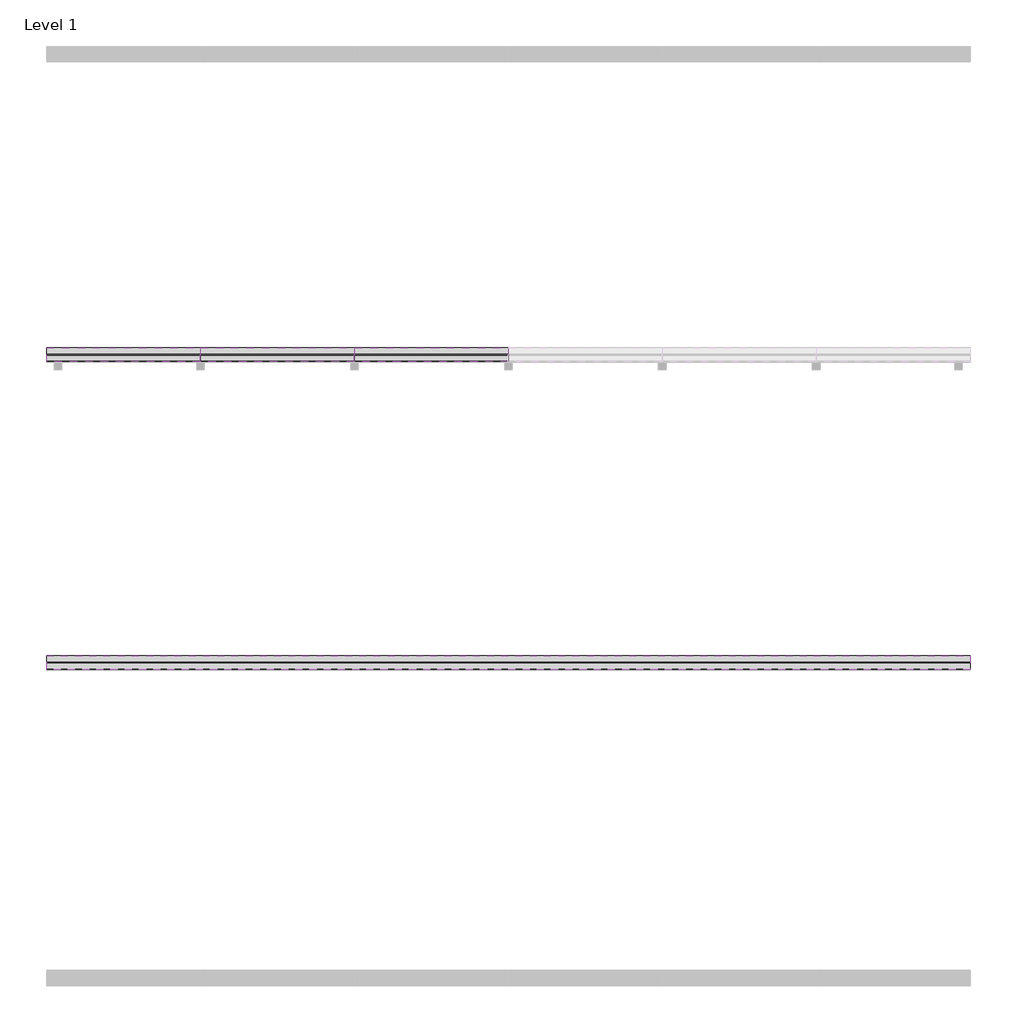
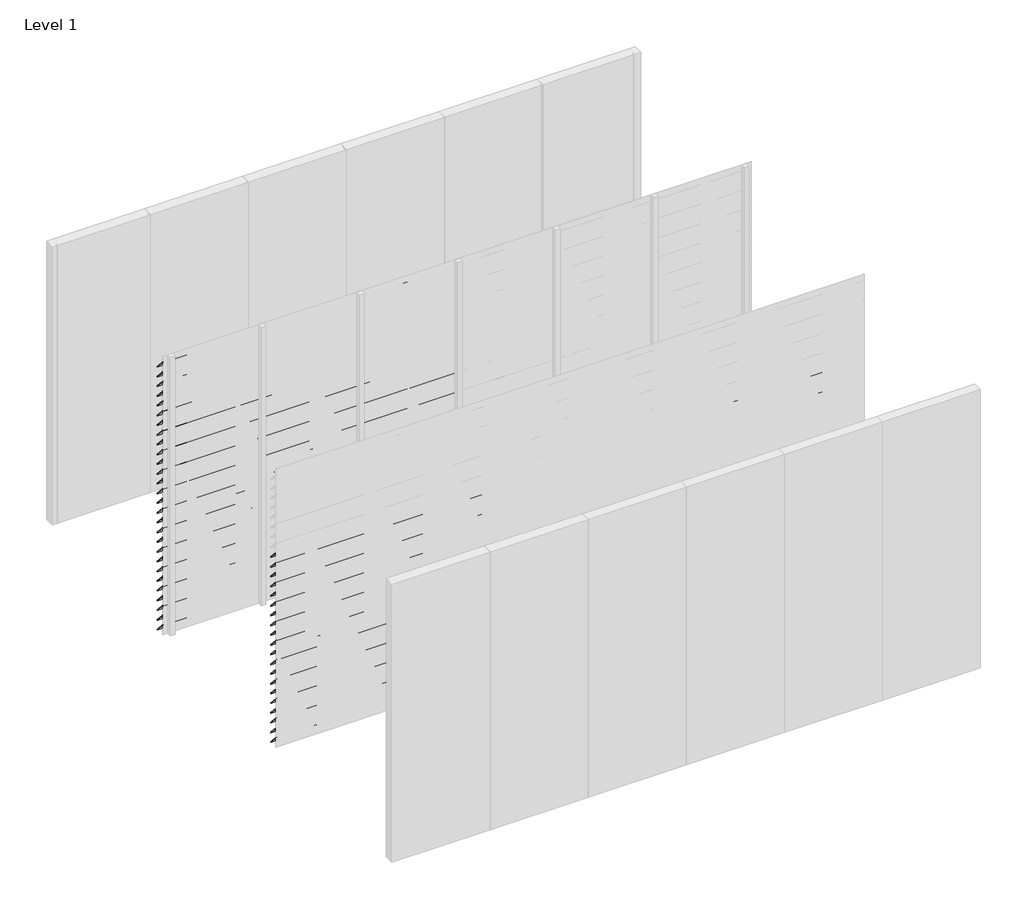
# One storey, part 4 of 9: 95 proxies.
"""IFC4 building model written with IfcOpenShell, lengths in millimetres."""

from ifc_helpers import new_model, si_unit, frame, origin, place, context, project, spatial, polyline, outline, extrude, element, save

model = new_model("IFC4")

# Units and contexts
model_context = context("Model", 3, world=origin())
ifc_project = project(units=[si_unit("LENGTHUNIT", "METRE", prefix="MILLI")], contexts=[model_context])

# Site, building, storey
site = spatial("IfcSite", under=ifc_project)
building = spatial("IfcBuilding", under=site)
storey = spatial("IfcBuildingStorey", under=building, Name="Level 1", Elevation=0.0)

# Proxies
placement = place(None, origin())
element("IfcBuildingElementProxy", 1, Name="Wall Sweeps", at=placement, inside=storey, context=model_context, shape_type="SweptSolid", body=[
    extrude(outline(polyline([(-11995.0, 2940.0), (-11995.0, 2935.6232888), (-11908.0, 2839.0), (-11908.0, 2829.0), (-11997.0, 2927.8445138), (-11997.0, 2940.0), (-11995.0, 2940.0)])), frame((0.0, 0.0, 0.0), z_axis=(1.0, 0.0, 0.0), x_axis=(0.0, 1.0, 0.0)), (0.0, 0.0, 1.0), 1000.0),
])
element("IfcBuildingElementProxy", 2, Name="Wall Sweeps", at=placement, inside=storey, context=model_context, shape_type="SweptSolid", body=[
    extrude(outline(polyline([(-11995.0, 2835.0), (-11995.0, 2830.6232888), (-11908.0, 2734.0), (-11908.0, 2724.0), (-11997.0, 2822.8445138), (-11997.0, 2835.0), (-11995.0, 2835.0)])), frame((0.0, 0.0, 0.0), z_axis=(1.0, 0.0, 0.0), x_axis=(0.0, 1.0, 0.0)), (0.0, 0.0, 1.0), 1000.0),
])
element("IfcBuildingElementProxy", 3, Name="Wall Sweeps", at=placement, inside=storey, context=model_context, shape_type="SweptSolid", body=[
    extrude(outline(polyline([(-11995.0, 2730.0), (-11995.0, 2725.6232888), (-11908.0, 2629.0), (-11908.0, 2619.0), (-11997.0, 2717.8445138), (-11997.0, 2730.0), (-11995.0, 2730.0)])), frame((0.0, 0.0, 0.0), z_axis=(1.0, 0.0, 0.0), x_axis=(0.0, 1.0, 0.0)), (0.0, 0.0, 1.0), 1000.0),
])
element("IfcBuildingElementProxy", 4, Name="Wall Sweeps", at=placement, inside=storey, context=model_context, shape_type="SweptSolid", body=[
    extrude(outline(polyline([(-11995.0, 2625.0), (-11995.0, 2620.6232888), (-11908.0, 2524.0), (-11908.0, 2514.0), (-11997.0, 2612.8445138), (-11997.0, 2625.0), (-11995.0, 2625.0)])), frame((0.0, 0.0, 0.0), z_axis=(1.0, 0.0, 0.0), x_axis=(0.0, 1.0, 0.0)), (0.0, 0.0, 1.0), 1000.0),
])
element("IfcBuildingElementProxy", 5, Name="Wall Sweeps", at=placement, inside=storey, context=model_context, shape_type="SweptSolid", body=[
    extrude(outline(polyline([(-11995.0, 2520.0), (-11995.0, 2515.6232888), (-11908.0, 2419.0), (-11908.0, 2409.0), (-11997.0, 2507.8445138), (-11997.0, 2520.0), (-11995.0, 2520.0)])), frame((0.0, 0.0, 0.0), z_axis=(1.0, 0.0, 0.0), x_axis=(0.0, 1.0, 0.0)), (0.0, 0.0, 1.0), 1000.0),
])
element("IfcBuildingElementProxy", 6, Name="Wall Sweeps", at=placement, inside=storey, context=model_context, shape_type="SweptSolid", body=[
    extrude(outline(polyline([(-11995.0, 2415.0), (-11995.0, 2410.6232888), (-11908.0, 2314.0), (-11908.0, 2304.0), (-11997.0, 2402.8445138), (-11997.0, 2415.0), (-11995.0, 2415.0)])), frame((0.0, 0.0, 0.0), z_axis=(1.0, 0.0, 0.0), x_axis=(0.0, 1.0, 0.0)), (0.0, 0.0, 1.0), 1000.0),
])
element("IfcBuildingElementProxy", 7, Name="Wall Sweeps", at=placement, inside=storey, context=model_context, shape_type="SweptSolid", body=[
    extrude(outline(polyline([(-11995.0, 2310.0), (-11995.0, 2305.6232888), (-11908.0, 2209.0), (-11908.0, 2199.0), (-11997.0, 2297.8445138), (-11997.0, 2310.0), (-11995.0, 2310.0)])), frame((0.0, 0.0, 0.0), z_axis=(1.0, 0.0, 0.0), x_axis=(0.0, 1.0, 0.0)), (0.0, 0.0, 1.0), 1000.0),
])
element("IfcBuildingElementProxy", 8, Name="Wall Sweeps", at=placement, inside=storey, context=model_context, shape_type="SweptSolid", body=[
    extrude(outline(polyline([(-11995.0, 2205.0), (-11995.0, 2200.6232888), (-11908.0, 2104.0), (-11908.0, 2094.0), (-11997.0, 2192.8445138), (-11997.0, 2205.0), (-11995.0, 2205.0)])), frame((0.0, 0.0, 0.0), z_axis=(1.0, 0.0, 0.0), x_axis=(0.0, 1.0, 0.0)), (0.0, 0.0, 1.0), 1000.0),
])
element("IfcBuildingElementProxy", 9, Name="Wall Sweeps", at=placement, inside=storey, context=model_context, shape_type="SweptSolid", body=[
    extrude(outline(polyline([(-11995.0, 2100.0), (-11995.0, 2095.6232888), (-11908.0, 1999.0), (-11908.0, 1989.0), (-11997.0, 2087.8445138), (-11997.0, 2100.0), (-11995.0, 2100.0)])), frame((0.0, 0.0, 0.0), z_axis=(1.0, 0.0, 0.0), x_axis=(0.0, 1.0, 0.0)), (0.0, 0.0, 1.0), 1000.0),
])
element("IfcBuildingElementProxy", 10, Name="Wall Sweeps", at=placement, inside=storey, context=model_context, shape_type="SweptSolid", body=[
    extrude(outline(polyline([(-11995.0, 1995.0), (-11995.0, 1990.6232888), (-11908.0, 1894.0), (-11908.0, 1884.0), (-11997.0, 1982.8445138), (-11997.0, 1995.0), (-11995.0, 1995.0)])), frame((0.0, 0.0, 0.0), z_axis=(1.0, 0.0, 0.0), x_axis=(0.0, 1.0, 0.0)), (0.0, 0.0, 1.0), 1000.0),
])
element("IfcBuildingElementProxy", 11, Name="Wall Sweeps", at=placement, inside=storey, context=model_context, shape_type="SweptSolid", body=[
    extrude(outline(polyline([(-11995.0, 1890.0), (-11995.0, 1885.6232888), (-11908.0, 1789.0), (-11908.0, 1779.0), (-11997.0, 1877.8445138), (-11997.0, 1890.0), (-11995.0, 1890.0)])), frame((0.0, 0.0, 0.0), z_axis=(1.0, 0.0, 0.0), x_axis=(0.0, 1.0, 0.0)), (0.0, 0.0, 1.0), 1000.0),
])
element("IfcBuildingElementProxy", 12, Name="Wall Sweeps", at=placement, inside=storey, context=model_context, shape_type="SweptSolid", body=[
    extrude(outline(polyline([(-11995.0, 1785.0), (-11995.0, 1780.6232888), (-11908.0, 1684.0), (-11908.0, 1674.0), (-11997.0, 1772.8445138), (-11997.0, 1785.0), (-11995.0, 1785.0)])), frame((0.0, 0.0, 0.0), z_axis=(1.0, 0.0, 0.0), x_axis=(0.0, 1.0, 0.0)), (0.0, 0.0, 1.0), 1000.0),
])
element("IfcBuildingElementProxy", 13, Name="Wall Sweeps", at=placement, inside=storey, context=model_context, shape_type="SweptSolid", body=[
    extrude(outline(polyline([(-11995.0, 1680.0), (-11995.0, 1675.6232888), (-11908.0, 1579.0), (-11908.0, 1569.0), (-11997.0, 1667.8445138), (-11997.0, 1680.0), (-11995.0, 1680.0)])), frame((0.0, 0.0, 0.0), z_axis=(1.0, 0.0, 0.0), x_axis=(0.0, 1.0, 0.0)), (0.0, 0.0, 1.0), 1000.0),
])
element("IfcBuildingElementProxy", 14, Name="Wall Sweeps", at=placement, inside=storey, context=model_context, shape_type="SweptSolid", body=[
    extrude(outline(polyline([(-11995.0, 1575.0), (-11995.0, 1570.6232888), (-11908.0, 1474.0), (-11908.0, 1464.0), (-11997.0, 1562.8445138), (-11997.0, 1575.0), (-11995.0, 1575.0)])), frame((0.0, 0.0, 0.0), z_axis=(1.0, 0.0, 0.0), x_axis=(0.0, 1.0, 0.0)), (0.0, 0.0, 1.0), 1000.0),
])
element("IfcBuildingElementProxy", 15, Name="Wall Sweeps", at=placement, inside=storey, context=model_context, shape_type="SweptSolid", body=[
    extrude(outline(polyline([(-11995.0, 1470.0), (-11995.0, 1465.6232888), (-11908.0, 1369.0), (-11908.0, 1359.0), (-11997.0, 1457.8445138), (-11997.0, 1470.0), (-11995.0, 1470.0)])), frame((0.0, 0.0, 0.0), z_axis=(1.0, 0.0, 0.0), x_axis=(0.0, 1.0, 0.0)), (0.0, 0.0, 1.0), 1000.0),
])
element("IfcBuildingElementProxy", 16, Name="Wall Sweeps", at=placement, inside=storey, context=model_context, shape_type="SweptSolid", body=[
    extrude(outline(polyline([(-11995.0, 1365.0), (-11995.0, 1360.6232888), (-11908.0, 1264.0), (-11908.0, 1254.0), (-11997.0, 1352.8445138), (-11997.0, 1365.0), (-11995.0, 1365.0)])), frame((0.0, 0.0, 0.0), z_axis=(1.0, 0.0, 0.0), x_axis=(0.0, 1.0, 0.0)), (0.0, 0.0, 1.0), 1000.0),
])
element("IfcBuildingElementProxy", 17, Name="Wall Sweeps", at=placement, inside=storey, context=model_context, shape_type="SweptSolid", body=[
    extrude(outline(polyline([(-11995.0, 1260.0), (-11995.0, 1255.6232888), (-11908.0, 1159.0), (-11908.0, 1149.0), (-11997.0, 1247.8445138), (-11997.0, 1260.0), (-11995.0, 1260.0)])), frame((0.0, 0.0, 0.0), z_axis=(1.0, 0.0, 0.0), x_axis=(0.0, 1.0, 0.0)), (0.0, 0.0, 1.0), 1000.0),
])
element("IfcBuildingElementProxy", 18, Name="Wall Sweeps", at=placement, inside=storey, context=model_context, shape_type="SweptSolid", body=[
    extrude(outline(polyline([(-11995.0, 1155.0), (-11995.0, 1150.6232888), (-11908.0, 1054.0), (-11908.0, 1044.0), (-11997.0, 1142.8445138), (-11997.0, 1155.0), (-11995.0, 1155.0)])), frame((0.0, 0.0, 0.0), z_axis=(1.0, 0.0, 0.0), x_axis=(0.0, 1.0, 0.0)), (0.0, 0.0, 1.0), 1000.0),
])
element("IfcBuildingElementProxy", 19, Name="Wall Sweeps", at=placement, inside=storey, context=model_context, shape_type="SweptSolid", body=[
    extrude(outline(polyline([(-11995.0, 1050.0), (-11995.0, 1045.6232888), (-11908.0, 949.0), (-11908.0, 939.0), (-11997.0, 1037.8445138), (-11997.0, 1050.0), (-11995.0, 1050.0)])), frame((0.0, 0.0, 0.0), z_axis=(1.0, 0.0, 0.0), x_axis=(0.0, 1.0, 0.0)), (0.0, 0.0, 1.0), 1000.0),
])
element("IfcBuildingElementProxy", 20, Name="Wall Sweeps", at=placement, inside=storey, context=model_context, shape_type="SweptSolid", body=[
    extrude(outline(polyline([(-11995.0, 945.0), (-11995.0, 940.6232888), (-11908.0, 844.0), (-11908.0, 834.0), (-11997.0, 932.8445138), (-11997.0, 945.0), (-11995.0, 945.0)])), frame((0.0, 0.0, 0.0), z_axis=(1.0, 0.0, 0.0), x_axis=(0.0, 1.0, 0.0)), (0.0, 0.0, 1.0), 1000.0),
])
element("IfcBuildingElementProxy", 21, Name="Wall Sweeps", at=placement, inside=storey, context=model_context, shape_type="SweptSolid", body=[
    extrude(outline(polyline([(-11995.0, 840.0), (-11995.0, 835.6232888), (-11908.0, 739.0), (-11908.0, 729.0), (-11997.0, 827.8445138), (-11997.0, 840.0), (-11995.0, 840.0)])), frame((0.0, 0.0, 0.0), z_axis=(1.0, 0.0, 0.0), x_axis=(0.0, 1.0, 0.0)), (0.0, 0.0, 1.0), 1000.0),
])
element("IfcBuildingElementProxy", 22, Name="Wall Sweeps", at=placement, inside=storey, context=model_context, shape_type="SweptSolid", body=[
    extrude(outline(polyline([(-11995.0, 735.0), (-11995.0, 730.6232888), (-11908.0, 634.0), (-11908.0, 624.0), (-11997.0, 722.8445138), (-11997.0, 735.0), (-11995.0, 735.0)])), frame((0.0, 0.0, 0.0), z_axis=(1.0, 0.0, 0.0), x_axis=(0.0, 1.0, 0.0)), (0.0, 0.0, 1.0), 1000.0),
])
element("IfcBuildingElementProxy", 23, Name="Wall Sweeps", at=placement, inside=storey, context=model_context, shape_type="SweptSolid", body=[
    extrude(outline(polyline([(-11995.0, 630.0), (-11995.0, 625.6232888), (-11908.0, 529.0), (-11908.0, 519.0), (-11997.0, 617.8445138), (-11997.0, 630.0), (-11995.0, 630.0)])), frame((0.0, 0.0, 0.0), z_axis=(1.0, 0.0, 0.0), x_axis=(0.0, 1.0, 0.0)), (0.0, 0.0, 1.0), 1000.0),
])
element("IfcBuildingElementProxy", 24, Name="Wall Sweeps", at=placement, inside=storey, context=model_context, shape_type="SweptSolid", body=[
    extrude(outline(polyline([(-11995.0, 525.0), (-11995.0, 520.6232888), (-11908.0, 424.0), (-11908.0, 414.0), (-11997.0, 512.8445138), (-11997.0, 525.0), (-11995.0, 525.0)])), frame((0.0, 0.0, 0.0), z_axis=(1.0, 0.0, 0.0), x_axis=(0.0, 1.0, 0.0)), (0.0, 0.0, 1.0), 1000.0),
])
element("IfcBuildingElementProxy", 25, Name="Wall Sweeps", at=placement, inside=storey, context=model_context, shape_type="SweptSolid", body=[
    extrude(outline(polyline([(-11995.0, 420.0), (-11995.0, 415.6232888), (-11908.0, 319.0), (-11908.0, 309.0), (-11997.0, 407.8445138), (-11997.0, 420.0), (-11995.0, 420.0)])), frame((0.0, 0.0, 0.0), z_axis=(1.0, 0.0, 0.0), x_axis=(0.0, 1.0, 0.0)), (0.0, 0.0, 1.0), 1000.0),
])
element("IfcBuildingElementProxy", 26, Name="Wall Sweeps", at=placement, inside=storey, context=model_context, shape_type="SweptSolid", body=[
    extrude(outline(polyline([(-11995.0, 315.0), (-11995.0, 310.6232888), (-11908.0, 214.0), (-11908.0, 204.0), (-11997.0, 302.8445138), (-11997.0, 315.0), (-11995.0, 315.0)])), frame((0.0, 0.0, 0.0), z_axis=(1.0, 0.0, 0.0), x_axis=(0.0, 1.0, 0.0)), (0.0, 0.0, 1.0), 1000.0),
])
element("IfcBuildingElementProxy", 27, Name="Wall Sweeps", at=placement, inside=storey, context=model_context, shape_type="SweptSolid", body=[
    extrude(outline(polyline([(-11995.0, 210.0), (-11995.0, 205.6232888), (-11908.0, 109.0), (-11908.0, 99.0), (-11997.0, 197.8445138), (-11997.0, 210.0), (-11995.0, 210.0)])), frame((0.0, 0.0, 0.0), z_axis=(1.0, 0.0, 0.0), x_axis=(0.0, 1.0, 0.0)), (0.0, 0.0, 1.0), 1000.0),
])
element("IfcBuildingElementProxy", 28, Name="Wall Sweeps", at=placement, inside=storey, context=model_context, shape_type="SweptSolid", body=[
    extrude(outline(polyline([(-11995.0, 105.0), (-11995.0, 100.6232888), (-11908.0, 4.0), (-11908.0, -6.0), (-11997.0, 92.8445138), (-11997.0, 105.0), (-11995.0, 105.0)])), frame((0.0, 0.0, 0.0), z_axis=(1.0, 0.0, 0.0), x_axis=(0.0, 1.0, 0.0)), (0.0, 0.0, 1.0), 1000.0),
])
element("IfcBuildingElementProxy", 29, Name="Wall Sweeps", at=placement, inside=storey, context=model_context, shape_type="SweptSolid", body=[
    extrude(outline(polyline([(-11995.0, 2940.0), (-11995.0, 2935.6232888), (-11908.0, 2839.0), (-11908.0, 2829.0), (-11997.0, 2927.8445138), (-11997.0, 2940.0), (-11995.0, 2940.0)])), frame((1000.0, 0.0, 0.0), z_axis=(1.0, 0.0, 0.0), x_axis=(0.0, 1.0, 0.0)), (0.0, 0.0, 1.0), 1000.0),
])
element("IfcBuildingElementProxy", 30, Name="Wall Sweeps", at=placement, inside=storey, context=model_context, shape_type="SweptSolid", body=[
    extrude(outline(polyline([(-11995.0, 2835.0), (-11995.0, 2830.6232888), (-11908.0, 2734.0), (-11908.0, 2724.0), (-11997.0, 2822.8445138), (-11997.0, 2835.0), (-11995.0, 2835.0)])), frame((1000.0, 0.0, 0.0), z_axis=(1.0, 0.0, 0.0), x_axis=(0.0, 1.0, 0.0)), (0.0, 0.0, 1.0), 1000.0),
])
element("IfcBuildingElementProxy", 31, Name="Wall Sweeps", at=placement, inside=storey, context=model_context, shape_type="SweptSolid", body=[
    extrude(outline(polyline([(-11995.0, 2730.0), (-11995.0, 2725.6232888), (-11908.0, 2629.0), (-11908.0, 2619.0), (-11997.0, 2717.8445138), (-11997.0, 2730.0), (-11995.0, 2730.0)])), frame((1000.0, 0.0, 0.0), z_axis=(1.0, 0.0, 0.0), x_axis=(0.0, 1.0, 0.0)), (0.0, 0.0, 1.0), 1000.0),
])
element("IfcBuildingElementProxy", 32, Name="Wall Sweeps", at=placement, inside=storey, context=model_context, shape_type="SweptSolid", body=[
    extrude(outline(polyline([(-11995.0, 2625.0), (-11995.0, 2620.6232888), (-11908.0, 2524.0), (-11908.0, 2514.0), (-11997.0, 2612.8445138), (-11997.0, 2625.0), (-11995.0, 2625.0)])), frame((1000.0, 0.0, 0.0), z_axis=(1.0, 0.0, 0.0), x_axis=(0.0, 1.0, 0.0)), (0.0, 0.0, 1.0), 1000.0),
])
element("IfcBuildingElementProxy", 33, Name="Wall Sweeps", at=placement, inside=storey, context=model_context, shape_type="SweptSolid", body=[
    extrude(outline(polyline([(-11995.0, 2520.0), (-11995.0, 2515.6232888), (-11908.0, 2419.0), (-11908.0, 2409.0), (-11997.0, 2507.8445138), (-11997.0, 2520.0), (-11995.0, 2520.0)])), frame((1000.0, 0.0, 0.0), z_axis=(1.0, 0.0, 0.0), x_axis=(0.0, 1.0, 0.0)), (0.0, 0.0, 1.0), 1000.0),
])
element("IfcBuildingElementProxy", 34, Name="Wall Sweeps", at=placement, inside=storey, context=model_context, shape_type="SweptSolid", body=[
    extrude(outline(polyline([(-11995.0, 2415.0), (-11995.0, 2410.6232888), (-11908.0, 2314.0), (-11908.0, 2304.0), (-11997.0, 2402.8445138), (-11997.0, 2415.0), (-11995.0, 2415.0)])), frame((1000.0, 0.0, 0.0), z_axis=(1.0, 0.0, 0.0), x_axis=(0.0, 1.0, 0.0)), (0.0, 0.0, 1.0), 1000.0),
])
element("IfcBuildingElementProxy", 35, Name="Wall Sweeps", at=placement, inside=storey, context=model_context, shape_type="SweptSolid", body=[
    extrude(outline(polyline([(-11995.0, 2310.0), (-11995.0, 2305.6232888), (-11908.0, 2209.0), (-11908.0, 2199.0), (-11997.0, 2297.8445138), (-11997.0, 2310.0), (-11995.0, 2310.0)])), frame((1000.0, 0.0, 0.0), z_axis=(1.0, 0.0, 0.0), x_axis=(0.0, 1.0, 0.0)), (0.0, 0.0, 1.0), 1000.0),
])
element("IfcBuildingElementProxy", 36, Name="Wall Sweeps", at=placement, inside=storey, context=model_context, shape_type="SweptSolid", body=[
    extrude(outline(polyline([(-11995.0, 2205.0), (-11995.0, 2200.6232888), (-11908.0, 2104.0), (-11908.0, 2094.0), (-11997.0, 2192.8445138), (-11997.0, 2205.0), (-11995.0, 2205.0)])), frame((1000.0, 0.0, 0.0), z_axis=(1.0, 0.0, 0.0), x_axis=(0.0, 1.0, 0.0)), (0.0, 0.0, 1.0), 1000.0),
])
element("IfcBuildingElementProxy", 37, Name="Wall Sweeps", at=placement, inside=storey, context=model_context, shape_type="SweptSolid", body=[
    extrude(outline(polyline([(-11995.0, 2100.0), (-11995.0, 2095.6232888), (-11908.0, 1999.0), (-11908.0, 1989.0), (-11997.0, 2087.8445138), (-11997.0, 2100.0), (-11995.0, 2100.0)])), frame((1000.0, 0.0, 0.0), z_axis=(1.0, 0.0, 0.0), x_axis=(0.0, 1.0, 0.0)), (0.0, 0.0, 1.0), 1000.0),
])
element("IfcBuildingElementProxy", 38, Name="Wall Sweeps", at=placement, inside=storey, context=model_context, shape_type="SweptSolid", body=[
    extrude(outline(polyline([(-11995.0, 1995.0), (-11995.0, 1990.6232888), (-11908.0, 1894.0), (-11908.0, 1884.0), (-11997.0, 1982.8445138), (-11997.0, 1995.0), (-11995.0, 1995.0)])), frame((1000.0, 0.0, 0.0), z_axis=(1.0, 0.0, 0.0), x_axis=(0.0, 1.0, 0.0)), (0.0, 0.0, 1.0), 1000.0),
])
element("IfcBuildingElementProxy", 39, Name="Wall Sweeps", at=placement, inside=storey, context=model_context, shape_type="SweptSolid", body=[
    extrude(outline(polyline([(-11995.0, 1890.0), (-11995.0, 1885.6232888), (-11908.0, 1789.0), (-11908.0, 1779.0), (-11997.0, 1877.8445138), (-11997.0, 1890.0), (-11995.0, 1890.0)])), frame((1000.0, 0.0, 0.0), z_axis=(1.0, 0.0, 0.0), x_axis=(0.0, 1.0, 0.0)), (0.0, 0.0, 1.0), 1000.0),
])
element("IfcBuildingElementProxy", 40, Name="Wall Sweeps", at=placement, inside=storey, context=model_context, shape_type="SweptSolid", body=[
    extrude(outline(polyline([(-11995.0, 1785.0), (-11995.0, 1780.6232888), (-11908.0, 1684.0), (-11908.0, 1674.0), (-11997.0, 1772.8445138), (-11997.0, 1785.0), (-11995.0, 1785.0)])), frame((1000.0, 0.0, 0.0), z_axis=(1.0, 0.0, 0.0), x_axis=(0.0, 1.0, 0.0)), (0.0, 0.0, 1.0), 1000.0),
])
element("IfcBuildingElementProxy", 41, Name="Wall Sweeps", at=placement, inside=storey, context=model_context, shape_type="SweptSolid", body=[
    extrude(outline(polyline([(-11995.0, 1680.0), (-11995.0, 1675.6232888), (-11908.0, 1579.0), (-11908.0, 1569.0), (-11997.0, 1667.8445138), (-11997.0, 1680.0), (-11995.0, 1680.0)])), frame((1000.0, 0.0, 0.0), z_axis=(1.0, 0.0, 0.0), x_axis=(0.0, 1.0, 0.0)), (0.0, 0.0, 1.0), 1000.0),
])
element("IfcBuildingElementProxy", 42, Name="Wall Sweeps", at=placement, inside=storey, context=model_context, shape_type="SweptSolid", body=[
    extrude(outline(polyline([(-11995.0, 1575.0), (-11995.0, 1570.6232888), (-11908.0, 1474.0), (-11908.0, 1464.0), (-11997.0, 1562.8445138), (-11997.0, 1575.0), (-11995.0, 1575.0)])), frame((1000.0, 0.0, 0.0), z_axis=(1.0, 0.0, 0.0), x_axis=(0.0, 1.0, 0.0)), (0.0, 0.0, 1.0), 1000.0),
])
element("IfcBuildingElementProxy", 43, Name="Wall Sweeps", at=placement, inside=storey, context=model_context, shape_type="SweptSolid", body=[
    extrude(outline(polyline([(-11995.0, 1470.0), (-11995.0, 1465.6232888), (-11908.0, 1369.0), (-11908.0, 1359.0), (-11997.0, 1457.8445138), (-11997.0, 1470.0), (-11995.0, 1470.0)])), frame((1000.0, 0.0, 0.0), z_axis=(1.0, 0.0, 0.0), x_axis=(0.0, 1.0, 0.0)), (0.0, 0.0, 1.0), 1000.0),
])
element("IfcBuildingElementProxy", 44, Name="Wall Sweeps", at=placement, inside=storey, context=model_context, shape_type="SweptSolid", body=[
    extrude(outline(polyline([(-11995.0, 1365.0), (-11995.0, 1360.6232888), (-11908.0, 1264.0), (-11908.0, 1254.0), (-11997.0, 1352.8445138), (-11997.0, 1365.0), (-11995.0, 1365.0)])), frame((1000.0, 0.0, 0.0), z_axis=(1.0, 0.0, 0.0), x_axis=(0.0, 1.0, 0.0)), (0.0, 0.0, 1.0), 1000.0),
])
element("IfcBuildingElementProxy", 45, Name="Wall Sweeps", at=placement, inside=storey, context=model_context, shape_type="SweptSolid", body=[
    extrude(outline(polyline([(-11995.0, 1260.0), (-11995.0, 1255.6232888), (-11908.0, 1159.0), (-11908.0, 1149.0), (-11997.0, 1247.8445138), (-11997.0, 1260.0), (-11995.0, 1260.0)])), frame((1000.0, 0.0, 0.0), z_axis=(1.0, 0.0, 0.0), x_axis=(0.0, 1.0, 0.0)), (0.0, 0.0, 1.0), 1000.0),
])
element("IfcBuildingElementProxy", 46, Name="Wall Sweeps", at=placement, inside=storey, context=model_context, shape_type="SweptSolid", body=[
    extrude(outline(polyline([(-11995.0, 1155.0), (-11995.0, 1150.6232888), (-11908.0, 1054.0), (-11908.0, 1044.0), (-11997.0, 1142.8445138), (-11997.0, 1155.0), (-11995.0, 1155.0)])), frame((1000.0, 0.0, 0.0), z_axis=(1.0, 0.0, 0.0), x_axis=(0.0, 1.0, 0.0)), (0.0, 0.0, 1.0), 1000.0),
])
element("IfcBuildingElementProxy", 47, Name="Wall Sweeps", at=placement, inside=storey, context=model_context, shape_type="SweptSolid", body=[
    extrude(outline(polyline([(-11995.0, 1050.0), (-11995.0, 1045.6232888), (-11908.0, 949.0), (-11908.0, 939.0), (-11997.0, 1037.8445138), (-11997.0, 1050.0), (-11995.0, 1050.0)])), frame((1000.0, 0.0, 0.0), z_axis=(1.0, 0.0, 0.0), x_axis=(0.0, 1.0, 0.0)), (0.0, 0.0, 1.0), 1000.0),
])
element("IfcBuildingElementProxy", 48, Name="Wall Sweeps", at=placement, inside=storey, context=model_context, shape_type="SweptSolid", body=[
    extrude(outline(polyline([(-11995.0, 945.0), (-11995.0, 940.6232888), (-11908.0, 844.0), (-11908.0, 834.0), (-11997.0, 932.8445138), (-11997.0, 945.0), (-11995.0, 945.0)])), frame((1000.0, 0.0, 0.0), z_axis=(1.0, 0.0, 0.0), x_axis=(0.0, 1.0, 0.0)), (0.0, 0.0, 1.0), 1000.0),
])
element("IfcBuildingElementProxy", 49, Name="Wall Sweeps", at=placement, inside=storey, context=model_context, shape_type="SweptSolid", body=[
    extrude(outline(polyline([(-11995.0, 840.0), (-11995.0, 835.6232888), (-11908.0, 739.0), (-11908.0, 729.0), (-11997.0, 827.8445138), (-11997.0, 840.0), (-11995.0, 840.0)])), frame((1000.0, 0.0, 0.0), z_axis=(1.0, 0.0, 0.0), x_axis=(0.0, 1.0, 0.0)), (0.0, 0.0, 1.0), 1000.0),
])
element("IfcBuildingElementProxy", 50, Name="Wall Sweeps", at=placement, inside=storey, context=model_context, shape_type="SweptSolid", body=[
    extrude(outline(polyline([(-11995.0, 735.0), (-11995.0, 730.6232888), (-11908.0, 634.0), (-11908.0, 624.0), (-11997.0, 722.8445138), (-11997.0, 735.0), (-11995.0, 735.0)])), frame((1000.0, 0.0, 0.0), z_axis=(1.0, 0.0, 0.0), x_axis=(0.0, 1.0, 0.0)), (0.0, 0.0, 1.0), 1000.0),
])
element("IfcBuildingElementProxy", 51, Name="Wall Sweeps", at=placement, inside=storey, context=model_context, shape_type="SweptSolid", body=[
    extrude(outline(polyline([(-11995.0, 630.0), (-11995.0, 625.6232888), (-11908.0, 529.0), (-11908.0, 519.0), (-11997.0, 617.8445138), (-11997.0, 630.0), (-11995.0, 630.0)])), frame((1000.0, 0.0, 0.0), z_axis=(1.0, 0.0, 0.0), x_axis=(0.0, 1.0, 0.0)), (0.0, 0.0, 1.0), 1000.0),
])
element("IfcBuildingElementProxy", 52, Name="Wall Sweeps", at=placement, inside=storey, context=model_context, shape_type="SweptSolid", body=[
    extrude(outline(polyline([(-11995.0, 525.0), (-11995.0, 520.6232888), (-11908.0, 424.0), (-11908.0, 414.0), (-11997.0, 512.8445138), (-11997.0, 525.0), (-11995.0, 525.0)])), frame((1000.0, 0.0, 0.0), z_axis=(1.0, 0.0, 0.0), x_axis=(0.0, 1.0, 0.0)), (0.0, 0.0, 1.0), 1000.0),
])
element("IfcBuildingElementProxy", 53, Name="Wall Sweeps", at=placement, inside=storey, context=model_context, shape_type="SweptSolid", body=[
    extrude(outline(polyline([(-11995.0, 420.0), (-11995.0, 415.6232888), (-11908.0, 319.0), (-11908.0, 309.0), (-11997.0, 407.8445138), (-11997.0, 420.0), (-11995.0, 420.0)])), frame((1000.0, 0.0, 0.0), z_axis=(1.0, 0.0, 0.0), x_axis=(0.0, 1.0, 0.0)), (0.0, 0.0, 1.0), 1000.0),
])
element("IfcBuildingElementProxy", 54, Name="Wall Sweeps", at=placement, inside=storey, context=model_context, shape_type="SweptSolid", body=[
    extrude(outline(polyline([(-11995.0, 315.0), (-11995.0, 310.6232888), (-11908.0, 214.0), (-11908.0, 204.0), (-11997.0, 302.8445138), (-11997.0, 315.0), (-11995.0, 315.0)])), frame((1000.0, 0.0, 0.0), z_axis=(1.0, 0.0, 0.0), x_axis=(0.0, 1.0, 0.0)), (0.0, 0.0, 1.0), 1000.0),
])
element("IfcBuildingElementProxy", 55, Name="Wall Sweeps", at=placement, inside=storey, context=model_context, shape_type="SweptSolid", body=[
    extrude(outline(polyline([(-11995.0, 210.0), (-11995.0, 205.6232888), (-11908.0, 109.0), (-11908.0, 99.0), (-11997.0, 197.8445138), (-11997.0, 210.0), (-11995.0, 210.0)])), frame((1000.0, 0.0, 0.0), z_axis=(1.0, 0.0, 0.0), x_axis=(0.0, 1.0, 0.0)), (0.0, 0.0, 1.0), 1000.0),
])
element("IfcBuildingElementProxy", 56, Name="Wall Sweeps", at=placement, inside=storey, context=model_context, shape_type="SweptSolid", body=[
    extrude(outline(polyline([(-11995.0, 105.0), (-11995.0, 100.6232888), (-11908.0, 4.0), (-11908.0, -6.0), (-11997.0, 92.8445138), (-11997.0, 105.0), (-11995.0, 105.0)])), frame((1000.0, 0.0, 0.0), z_axis=(1.0, 0.0, 0.0), x_axis=(0.0, 1.0, 0.0)), (0.0, 0.0, 1.0), 1000.0),
])
element("IfcBuildingElementProxy", 57, Name="Wall Sweeps", at=placement, inside=storey, context=model_context, shape_type="SweptSolid", body=[
    extrude(outline(polyline([(-11995.0, 2940.0), (-11995.0, 2935.6232888), (-11908.0, 2839.0), (-11908.0, 2829.0), (-11997.0, 2927.8445138), (-11997.0, 2940.0), (-11995.0, 2940.0)])), frame((2000.0, 0.0, 0.0), z_axis=(1.0, 0.0, 0.0), x_axis=(0.0, 1.0, 0.0)), (0.0, 0.0, 1.0), 1000.0),
])
element("IfcBuildingElementProxy", 58, Name="Wall Sweeps", at=placement, inside=storey, context=model_context, shape_type="SweptSolid", body=[
    extrude(outline(polyline([(-11995.0, 2835.0), (-11995.0, 2830.6232888), (-11908.0, 2734.0), (-11908.0, 2724.0), (-11997.0, 2822.8445138), (-11997.0, 2835.0), (-11995.0, 2835.0)])), frame((2000.0, 0.0, 0.0), z_axis=(1.0, 0.0, 0.0), x_axis=(0.0, 1.0, 0.0)), (0.0, 0.0, 1.0), 1000.0),
])
element("IfcBuildingElementProxy", 59, Name="Wall Sweeps", at=placement, inside=storey, context=model_context, shape_type="SweptSolid", body=[
    extrude(outline(polyline([(-11995.0, 2730.0), (-11995.0, 2725.6232888), (-11908.0, 2629.0), (-11908.0, 2619.0), (-11997.0, 2717.8445138), (-11997.0, 2730.0), (-11995.0, 2730.0)])), frame((2000.0, 0.0, 0.0), z_axis=(1.0, 0.0, 0.0), x_axis=(0.0, 1.0, 0.0)), (0.0, 0.0, 1.0), 1000.0),
])
element("IfcBuildingElementProxy", 60, Name="Wall Sweeps", at=placement, inside=storey, context=model_context, shape_type="SweptSolid", body=[
    extrude(outline(polyline([(-11995.0, 2625.0), (-11995.0, 2620.6232888), (-11908.0, 2524.0), (-11908.0, 2514.0), (-11997.0, 2612.8445138), (-11997.0, 2625.0), (-11995.0, 2625.0)])), frame((2000.0, 0.0, 0.0), z_axis=(1.0, 0.0, 0.0), x_axis=(0.0, 1.0, 0.0)), (0.0, 0.0, 1.0), 1000.0),
])
element("IfcBuildingElementProxy", 61, Name="Wall Sweeps", at=placement, inside=storey, context=model_context, shape_type="SweptSolid", body=[
    extrude(outline(polyline([(-11995.0, 2520.0), (-11995.0, 2515.6232888), (-11908.0, 2419.0), (-11908.0, 2409.0), (-11997.0, 2507.8445138), (-11997.0, 2520.0), (-11995.0, 2520.0)])), frame((2000.0, 0.0, 0.0), z_axis=(1.0, 0.0, 0.0), x_axis=(0.0, 1.0, 0.0)), (0.0, 0.0, 1.0), 1000.0),
])
element("IfcBuildingElementProxy", 62, Name="Wall Sweeps", at=placement, inside=storey, context=model_context, shape_type="SweptSolid", body=[
    extrude(outline(polyline([(-11995.0, 2415.0), (-11995.0, 2410.6232888), (-11908.0, 2314.0), (-11908.0, 2304.0), (-11997.0, 2402.8445138), (-11997.0, 2415.0), (-11995.0, 2415.0)])), frame((2000.0, 0.0, 0.0), z_axis=(1.0, 0.0, 0.0), x_axis=(0.0, 1.0, 0.0)), (0.0, 0.0, 1.0), 1000.0),
])
element("IfcBuildingElementProxy", 63, Name="Wall Sweeps", at=placement, inside=storey, context=model_context, shape_type="SweptSolid", body=[
    extrude(outline(polyline([(-11995.0, 2310.0), (-11995.0, 2305.6232888), (-11908.0, 2209.0), (-11908.0, 2199.0), (-11997.0, 2297.8445138), (-11997.0, 2310.0), (-11995.0, 2310.0)])), frame((2000.0, 0.0, 0.0), z_axis=(1.0, 0.0, 0.0), x_axis=(0.0, 1.0, 0.0)), (0.0, 0.0, 1.0), 1000.0),
])
element("IfcBuildingElementProxy", 64, Name="Wall Sweeps", at=placement, inside=storey, context=model_context, shape_type="SweptSolid", body=[
    extrude(outline(polyline([(-11995.0, 2205.0), (-11995.0, 2200.6232888), (-11908.0, 2104.0), (-11908.0, 2094.0), (-11997.0, 2192.8445138), (-11997.0, 2205.0), (-11995.0, 2205.0)])), frame((2000.0, 0.0, 0.0), z_axis=(1.0, 0.0, 0.0), x_axis=(0.0, 1.0, 0.0)), (0.0, 0.0, 1.0), 1000.0),
])
element("IfcBuildingElementProxy", 65, Name="Wall Sweeps", at=placement, inside=storey, context=model_context, shape_type="SweptSolid", body=[
    extrude(outline(polyline([(-11995.0, 2100.0), (-11995.0, 2095.6232888), (-11908.0, 1999.0), (-11908.0, 1989.0), (-11997.0, 2087.8445138), (-11997.0, 2100.0), (-11995.0, 2100.0)])), frame((2000.0, 0.0, 0.0), z_axis=(1.0, 0.0, 0.0), x_axis=(0.0, 1.0, 0.0)), (0.0, 0.0, 1.0), 1000.0),
])
element("IfcBuildingElementProxy", 66, Name="Wall Sweeps", at=placement, inside=storey, context=model_context, shape_type="SweptSolid", body=[
    extrude(outline(polyline([(-11995.0, 1995.0), (-11995.0, 1990.6232888), (-11908.0, 1894.0), (-11908.0, 1884.0), (-11997.0, 1982.8445138), (-11997.0, 1995.0), (-11995.0, 1995.0)])), frame((2000.0, 0.0, 0.0), z_axis=(1.0, 0.0, 0.0), x_axis=(0.0, 1.0, 0.0)), (0.0, 0.0, 1.0), 1000.0),
])
element("IfcBuildingElementProxy", 67, Name="Wall Sweeps", at=placement, inside=storey, context=model_context, shape_type="SweptSolid", body=[
    extrude(outline(polyline([(-11995.0, 1890.0), (-11995.0, 1885.6232888), (-11908.0, 1789.0), (-11908.0, 1779.0), (-11997.0, 1877.8445138), (-11997.0, 1890.0), (-11995.0, 1890.0)])), frame((2000.0, 0.0, 0.0), z_axis=(1.0, 0.0, 0.0), x_axis=(0.0, 1.0, 0.0)), (0.0, 0.0, 1.0), 1000.0),
])
element("IfcBuildingElementProxy", 68, Name="Wall Sweeps", at=placement, inside=storey, context=model_context, shape_type="SweptSolid", body=[
    extrude(outline(polyline([(-11995.0, 1785.0), (-11995.0, 1780.6232888), (-11908.0, 1684.0), (-11908.0, 1674.0), (-11997.0, 1772.8445138), (-11997.0, 1785.0), (-11995.0, 1785.0)])), frame((2000.0, 0.0, 0.0), z_axis=(1.0, 0.0, 0.0), x_axis=(0.0, 1.0, 0.0)), (0.0, 0.0, 1.0), 1000.0),
])
element("IfcBuildingElementProxy", 69, Name="Wall Sweeps", at=placement, inside=storey, context=model_context, shape_type="SweptSolid", body=[
    extrude(outline(polyline([(-11995.0, 1680.0), (-11995.0, 1675.6232888), (-11908.0, 1579.0), (-11908.0, 1569.0), (-11997.0, 1667.8445138), (-11997.0, 1680.0), (-11995.0, 1680.0)])), frame((2000.0, 0.0, 0.0), z_axis=(1.0, 0.0, 0.0), x_axis=(0.0, 1.0, 0.0)), (0.0, 0.0, 1.0), 1000.0),
])
element("IfcBuildingElementProxy", 70, Name="Wall Sweeps", at=placement, inside=storey, context=model_context, shape_type="SweptSolid", body=[
    extrude(outline(polyline([(-11995.0, 1575.0), (-11995.0, 1570.6232888), (-11908.0, 1474.0), (-11908.0, 1464.0), (-11997.0, 1562.8445138), (-11997.0, 1575.0), (-11995.0, 1575.0)])), frame((2000.0, 0.0, 0.0), z_axis=(1.0, 0.0, 0.0), x_axis=(0.0, 1.0, 0.0)), (0.0, 0.0, 1.0), 1000.0),
])
element("IfcBuildingElementProxy", 71, Name="Wall Sweeps", at=placement, inside=storey, context=model_context, shape_type="SweptSolid", body=[
    extrude(outline(polyline([(-11995.0, 1470.0), (-11995.0, 1465.6232888), (-11908.0, 1369.0), (-11908.0, 1359.0), (-11997.0, 1457.8445138), (-11997.0, 1470.0), (-11995.0, 1470.0)])), frame((2000.0, 0.0, 0.0), z_axis=(1.0, 0.0, 0.0), x_axis=(0.0, 1.0, 0.0)), (0.0, 0.0, 1.0), 1000.0),
])
element("IfcBuildingElementProxy", 72, Name="Wall Sweeps", at=placement, inside=storey, context=model_context, shape_type="SweptSolid", body=[
    extrude(outline(polyline([(-11995.0, 1365.0), (-11995.0, 1360.6232888), (-11908.0, 1264.0), (-11908.0, 1254.0), (-11997.0, 1352.8445138), (-11997.0, 1365.0), (-11995.0, 1365.0)])), frame((2000.0, 0.0, 0.0), z_axis=(1.0, 0.0, 0.0), x_axis=(0.0, 1.0, 0.0)), (0.0, 0.0, 1.0), 1000.0),
])
element("IfcBuildingElementProxy", 73, Name="Wall Sweeps", at=placement, inside=storey, context=model_context, shape_type="SweptSolid", body=[
    extrude(outline(polyline([(-11995.0, 1260.0), (-11995.0, 1255.6232888), (-11908.0, 1159.0), (-11908.0, 1149.0), (-11997.0, 1247.8445138), (-11997.0, 1260.0), (-11995.0, 1260.0)])), frame((2000.0, 0.0, 0.0), z_axis=(1.0, 0.0, 0.0), x_axis=(0.0, 1.0, 0.0)), (0.0, 0.0, 1.0), 1000.0),
])
element("IfcBuildingElementProxy", 74, Name="Wall Sweeps", at=placement, inside=storey, context=model_context, shape_type="SweptSolid", body=[
    extrude(outline(polyline([(-11995.0, 1155.0), (-11995.0, 1150.6232888), (-11908.0, 1054.0), (-11908.0, 1044.0), (-11997.0, 1142.8445138), (-11997.0, 1155.0), (-11995.0, 1155.0)])), frame((2000.0, 0.0, 0.0), z_axis=(1.0, 0.0, 0.0), x_axis=(0.0, 1.0, 0.0)), (0.0, 0.0, 1.0), 1000.0),
])
element("IfcBuildingElementProxy", 75, Name="Wall Sweeps", at=placement, inside=storey, context=model_context, shape_type="SweptSolid", body=[
    extrude(outline(polyline([(-11995.0, 1050.0), (-11995.0, 1045.6232888), (-11908.0, 949.0), (-11908.0, 939.0), (-11997.0, 1037.8445138), (-11997.0, 1050.0), (-11995.0, 1050.0)])), frame((2000.0, 0.0, 0.0), z_axis=(1.0, 0.0, 0.0), x_axis=(0.0, 1.0, 0.0)), (0.0, 0.0, 1.0), 1000.0),
])
element("IfcBuildingElementProxy", 76, Name="Wall Sweeps", at=placement, inside=storey, context=model_context, shape_type="SweptSolid", body=[
    extrude(outline(polyline([(-13995.0, 2100.0), (-13995.0, 2095.6232888), (-13908.0, 1999.0), (-13908.0, 1989.0), (-13997.0, 2087.8445138), (-13997.0, 2100.0), (-13995.0, 2100.0)])), frame((0.0, 0.0, 0.0), z_axis=(1.0, 0.0, 0.0), x_axis=(0.0, 1.0, 0.0)), (0.0, 0.0, 1.0), 6000.0),
])
element("IfcBuildingElementProxy", 77, Name="Wall Sweeps", at=placement, inside=storey, context=model_context, shape_type="SweptSolid", body=[
    extrude(outline(polyline([(-13995.0, 1995.0), (-13995.0, 1990.6232888), (-13908.0, 1894.0), (-13908.0, 1884.0), (-13997.0, 1982.8445138), (-13997.0, 1995.0), (-13995.0, 1995.0)])), frame((0.0, 0.0, 0.0), z_axis=(1.0, 0.0, 0.0), x_axis=(0.0, 1.0, 0.0)), (0.0, 0.0, 1.0), 6000.0),
])
element("IfcBuildingElementProxy", 78, Name="Wall Sweeps", at=placement, inside=storey, context=model_context, shape_type="SweptSolid", body=[
    extrude(outline(polyline([(-13995.0, 1890.0), (-13995.0, 1885.6232888), (-13908.0, 1789.0), (-13908.0, 1779.0), (-13997.0, 1877.8445138), (-13997.0, 1890.0), (-13995.0, 1890.0)])), frame((0.0, 0.0, 0.0), z_axis=(1.0, 0.0, 0.0), x_axis=(0.0, 1.0, 0.0)), (0.0, 0.0, 1.0), 6000.0),
])
element("IfcBuildingElementProxy", 79, Name="Wall Sweeps", at=placement, inside=storey, context=model_context, shape_type="SweptSolid", body=[
    extrude(outline(polyline([(-13995.0, 1785.0), (-13995.0, 1780.6232888), (-13908.0, 1684.0), (-13908.0, 1674.0), (-13997.0, 1772.8445138), (-13997.0, 1785.0), (-13995.0, 1785.0)])), frame((0.0, 0.0, 0.0), z_axis=(1.0, 0.0, 0.0), x_axis=(0.0, 1.0, 0.0)), (0.0, 0.0, 1.0), 6000.0),
])
element("IfcBuildingElementProxy", 80, Name="Wall Sweeps", at=placement, inside=storey, context=model_context, shape_type="SweptSolid", body=[
    extrude(outline(polyline([(-13995.0, 1680.0), (-13995.0, 1675.6232888), (-13908.0, 1579.0), (-13908.0, 1569.0), (-13997.0, 1667.8445138), (-13997.0, 1680.0), (-13995.0, 1680.0)])), frame((0.0, 0.0, 0.0), z_axis=(1.0, 0.0, 0.0), x_axis=(0.0, 1.0, 0.0)), (0.0, 0.0, 1.0), 6000.0),
])
element("IfcBuildingElementProxy", 81, Name="Wall Sweeps", at=placement, inside=storey, context=model_context, shape_type="SweptSolid", body=[
    extrude(outline(polyline([(-13995.0, 1575.0), (-13995.0, 1570.6232888), (-13908.0, 1474.0), (-13908.0, 1464.0), (-13997.0, 1562.8445138), (-13997.0, 1575.0), (-13995.0, 1575.0)])), frame((0.0, 0.0, 0.0), z_axis=(1.0, 0.0, 0.0), x_axis=(0.0, 1.0, 0.0)), (0.0, 0.0, 1.0), 6000.0),
])
element("IfcBuildingElementProxy", 82, Name="Wall Sweeps", at=placement, inside=storey, context=model_context, shape_type="SweptSolid", body=[
    extrude(outline(polyline([(-13995.0, 1470.0), (-13995.0, 1465.6232888), (-13908.0, 1369.0), (-13908.0, 1359.0), (-13997.0, 1457.8445138), (-13997.0, 1470.0), (-13995.0, 1470.0)])), frame((0.0, 0.0, 0.0), z_axis=(1.0, 0.0, 0.0), x_axis=(0.0, 1.0, 0.0)), (0.0, 0.0, 1.0), 6000.0),
])
element("IfcBuildingElementProxy", 83, Name="Wall Sweeps", at=placement, inside=storey, context=model_context, shape_type="SweptSolid", body=[
    extrude(outline(polyline([(-13995.0, 1365.0), (-13995.0, 1360.6232888), (-13908.0, 1264.0), (-13908.0, 1254.0), (-13997.0, 1352.8445138), (-13997.0, 1365.0), (-13995.0, 1365.0)])), frame((0.0, 0.0, 0.0), z_axis=(1.0, 0.0, 0.0), x_axis=(0.0, 1.0, 0.0)), (0.0, 0.0, 1.0), 6000.0),
])
element("IfcBuildingElementProxy", 84, Name="Wall Sweeps", at=placement, inside=storey, context=model_context, shape_type="SweptSolid", body=[
    extrude(outline(polyline([(-13995.0, 1260.0), (-13995.0, 1255.6232888), (-13908.0, 1159.0), (-13908.0, 1149.0), (-13997.0, 1247.8445138), (-13997.0, 1260.0), (-13995.0, 1260.0)])), frame((0.0, 0.0, 0.0), z_axis=(1.0, 0.0, 0.0), x_axis=(0.0, 1.0, 0.0)), (0.0, 0.0, 1.0), 6000.0),
])
element("IfcBuildingElementProxy", 85, Name="Wall Sweeps", at=placement, inside=storey, context=model_context, shape_type="SweptSolid", body=[
    extrude(outline(polyline([(-13995.0, 1155.0), (-13995.0, 1150.6232888), (-13908.0, 1054.0), (-13908.0, 1044.0), (-13997.0, 1142.8445138), (-13997.0, 1155.0), (-13995.0, 1155.0)])), frame((0.0, 0.0, 0.0), z_axis=(1.0, 0.0, 0.0), x_axis=(0.0, 1.0, 0.0)), (0.0, 0.0, 1.0), 6000.0),
])
element("IfcBuildingElementProxy", 86, Name="Wall Sweeps", at=placement, inside=storey, context=model_context, shape_type="SweptSolid", body=[
    extrude(outline(polyline([(-13995.0, 1050.0), (-13995.0, 1045.6232888), (-13908.0, 949.0), (-13908.0, 939.0), (-13997.0, 1037.8445138), (-13997.0, 1050.0), (-13995.0, 1050.0)])), frame((0.0, 0.0, 0.0), z_axis=(1.0, 0.0, 0.0), x_axis=(0.0, 1.0, 0.0)), (0.0, 0.0, 1.0), 6000.0),
])
element("IfcBuildingElementProxy", 87, Name="Wall Sweeps", at=placement, inside=storey, context=model_context, shape_type="SweptSolid", body=[
    extrude(outline(polyline([(-13995.0, 945.0), (-13995.0, 940.6232888), (-13908.0, 844.0), (-13908.0, 834.0), (-13997.0, 932.8445138), (-13997.0, 945.0), (-13995.0, 945.0)])), frame((0.0, 0.0, 0.0), z_axis=(1.0, 0.0, 0.0), x_axis=(0.0, 1.0, 0.0)), (0.0, 0.0, 1.0), 6000.0),
])
element("IfcBuildingElementProxy", 88, Name="Wall Sweeps", at=placement, inside=storey, context=model_context, shape_type="SweptSolid", body=[
    extrude(outline(polyline([(-13995.0, 840.0), (-13995.0, 835.6232888), (-13908.0, 739.0), (-13908.0, 729.0), (-13997.0, 827.8445138), (-13997.0, 840.0), (-13995.0, 840.0)])), frame((0.0, 0.0, 0.0), z_axis=(1.0, 0.0, 0.0), x_axis=(0.0, 1.0, 0.0)), (0.0, 0.0, 1.0), 6000.0),
])
element("IfcBuildingElementProxy", 89, Name="Wall Sweeps", at=placement, inside=storey, context=model_context, shape_type="SweptSolid", body=[
    extrude(outline(polyline([(-13995.0, 735.0), (-13995.0, 730.6232888), (-13908.0, 634.0), (-13908.0, 624.0), (-13997.0, 722.8445138), (-13997.0, 735.0), (-13995.0, 735.0)])), frame((0.0, 0.0, 0.0), z_axis=(1.0, 0.0, 0.0), x_axis=(0.0, 1.0, 0.0)), (0.0, 0.0, 1.0), 6000.0),
])
element("IfcBuildingElementProxy", 90, Name="Wall Sweeps", at=placement, inside=storey, context=model_context, shape_type="SweptSolid", body=[
    extrude(outline(polyline([(-13995.0, 630.0), (-13995.0, 625.6232888), (-13908.0, 529.0), (-13908.0, 519.0), (-13997.0, 617.8445138), (-13997.0, 630.0), (-13995.0, 630.0)])), frame((0.0, 0.0, 0.0), z_axis=(1.0, 0.0, 0.0), x_axis=(0.0, 1.0, 0.0)), (0.0, 0.0, 1.0), 6000.0),
])
element("IfcBuildingElementProxy", 91, Name="Wall Sweeps", at=placement, inside=storey, context=model_context, shape_type="SweptSolid", body=[
    extrude(outline(polyline([(-13995.0, 525.0), (-13995.0, 520.6232888), (-13908.0, 424.0), (-13908.0, 414.0), (-13997.0, 512.8445138), (-13997.0, 525.0), (-13995.0, 525.0)])), frame((0.0, 0.0, 0.0), z_axis=(1.0, 0.0, 0.0), x_axis=(0.0, 1.0, 0.0)), (0.0, 0.0, 1.0), 6000.0),
])
element("IfcBuildingElementProxy", 92, Name="Wall Sweeps", at=placement, inside=storey, context=model_context, shape_type="SweptSolid", body=[
    extrude(outline(polyline([(-13995.0, 420.0), (-13995.0, 415.6232888), (-13908.0, 319.0), (-13908.0, 309.0), (-13997.0, 407.8445138), (-13997.0, 420.0), (-13995.0, 420.0)])), frame((0.0, 0.0, 0.0), z_axis=(1.0, 0.0, 0.0), x_axis=(0.0, 1.0, 0.0)), (0.0, 0.0, 1.0), 6000.0),
])
element("IfcBuildingElementProxy", 93, Name="Wall Sweeps", at=placement, inside=storey, context=model_context, shape_type="SweptSolid", body=[
    extrude(outline(polyline([(-13995.0, 315.0), (-13995.0, 310.6232888), (-13908.0, 214.0), (-13908.0, 204.0), (-13997.0, 302.8445138), (-13997.0, 315.0), (-13995.0, 315.0)])), frame((0.0, 0.0, 0.0), z_axis=(1.0, 0.0, 0.0), x_axis=(0.0, 1.0, 0.0)), (0.0, 0.0, 1.0), 6000.0),
])
element("IfcBuildingElementProxy", 94, Name="Wall Sweeps", at=placement, inside=storey, context=model_context, shape_type="SweptSolid", body=[
    extrude(outline(polyline([(-13995.0, 210.0), (-13995.0, 205.6232888), (-13908.0, 109.0), (-13908.0, 99.0), (-13997.0, 197.8445138), (-13997.0, 210.0), (-13995.0, 210.0)])), frame((0.0, 0.0, 0.0), z_axis=(1.0, 0.0, 0.0), x_axis=(0.0, 1.0, 0.0)), (0.0, 0.0, 1.0), 6000.0),
])
element("IfcBuildingElementProxy", 95, Name="Wall Sweeps", at=placement, inside=storey, context=model_context, shape_type="SweptSolid", body=[
    extrude(outline(polyline([(-13995.0, 105.0), (-13995.0, 100.6232888), (-13908.0, 4.0), (-13908.0, -6.0), (-13997.0, 92.8445138), (-13997.0, 105.0), (-13995.0, 105.0)])), frame((0.0, 0.0, 0.0), z_axis=(1.0, 0.0, 0.0), x_axis=(0.0, 1.0, 0.0)), (0.0, 0.0, 1.0), 6000.0),
])

save(model, "model.ifc")
